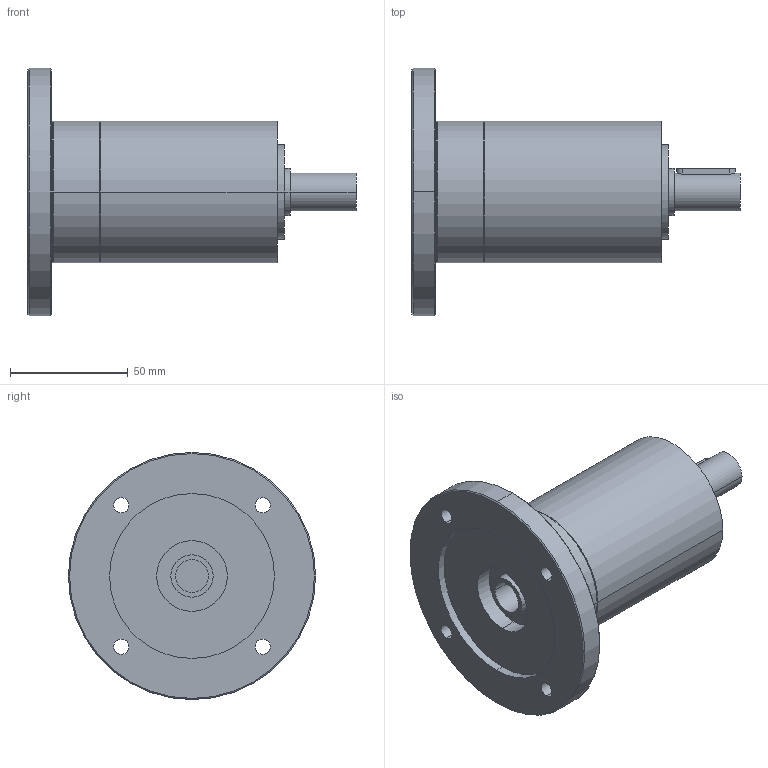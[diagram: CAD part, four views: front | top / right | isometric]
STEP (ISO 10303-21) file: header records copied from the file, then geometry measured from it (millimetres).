
FILE_DESCRIPTION(('CoCreate Modeling STEP Export'),'2;1');
FILE_NAME('GPR75_ig-9-12-16-20-24-30-36_16_B14_14_P05.stp','2014-08-25T16:45:09',(''),(''),'CoCreate Modeling STEP processor for AP214 (Solid Model)','CoCreate Modeling 16.00C 25-Feb-2009 (C) Parametric Technology GmbH','');
FILE_SCHEMA(('AUTOMOTIVE_DESIGN { 1 0 10303 214 1 1 1 1 }'));
Length unit declared in the file: millimetre
Products named in the file (2): GPR75_ig-9-12-16-20-24-30-36_16_B14_14_P05
Assembly tree (1 placements, depth 2):
  GPR75_ig-9-12-16-20-24-30-36_16_B14_14_P05
    GPR75_ig-9-12-16-20-24-30-36_16_B14_14_P05
Bounding box: 139.4 x 105 x 105 mm (x, y, z)
Volume: 344123.1 mm3; surface area: 45018.9 mm2
Topology: 1 solids, 1 shells, 71 faces, 186 edges, 130 vertices
Faces by surface type: cylinder 42, plane 19, cone 10
Entity records: 1877 total; most frequent: ORIENTED_EDGE 368, CARTESIAN_POINT 345, DIRECTION 244, EDGE_CURVE 184, VERTEX_POINT 130, EDGE_LOOP 94, AXIS2_PLACEMENT_3D 93, FACE_OUTER_BOUND 71
